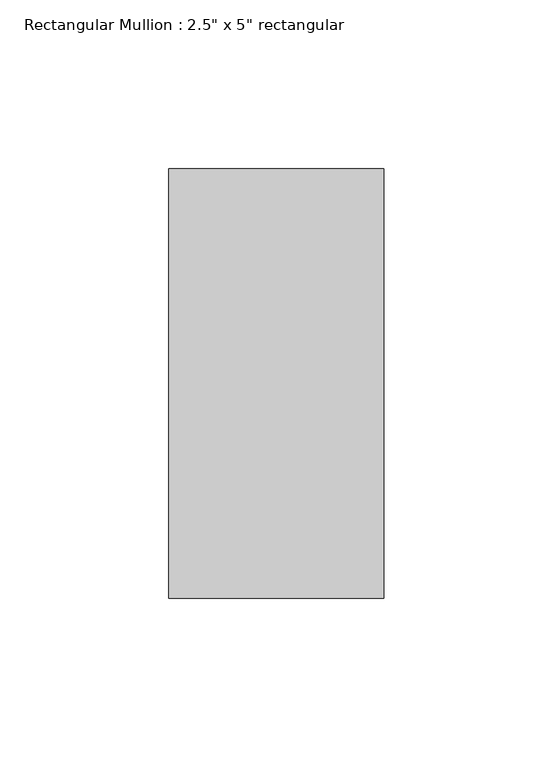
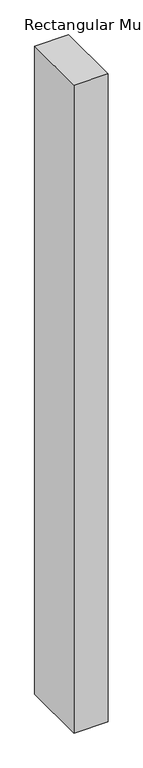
"""IFC4 building model written with IfcOpenShell, lengths in millimetres: member geometry."""

from ifc_helpers import new_model, si_unit, frame, origin, place, context, project, spatial, polyline, outline, extrude, source, transform, mapped, element, save


def member_58fbc06e(model_context):
    return source(origin(), model_context, "Body", "SweptSolid", [
        extrude(outline(polyline([(31.75, 63.5), (31.75, -63.5), (-31.75, -63.5), (-31.75, 63.5), (31.75, 63.5)])), frame((0.0, 0.0, -1276.35), z_axis=(0.0, 0.0, 1.0), x_axis=(1.0, 0.0, 0.0)), (0.0, 0.0, 1.0), 1276.35),
    ])


if __name__ == "__main__":
    model = new_model("IFC4")
    model_context = context("Model", 3, world=origin())
    ifc_project = project(units=[si_unit("LENGTHUNIT", "METRE", prefix="MILLI")], contexts=[model_context])
    site = spatial("IfcSite", under=ifc_project)
    building = spatial("IfcBuilding", under=site)
    placement = place(None, origin())
    member_shape = member_58fbc06e(model_context)
    element("IfcMember", 1, ObjectType="Rectangular Mullion : 2.5\" x 5\" rectangular", at=placement, inside=building, context=model_context, shape_type="MappedRepresentation", body=[
        mapped(member_shape, transform((0.0, 0.0, 0.0), x_axis=(1.0, 0.0, 0.0), y_axis=(0.0, 1.0, 0.0), z_axis=(0.0, 0.0, 1.0))),
    ])
    save(model, "model.ifc")
